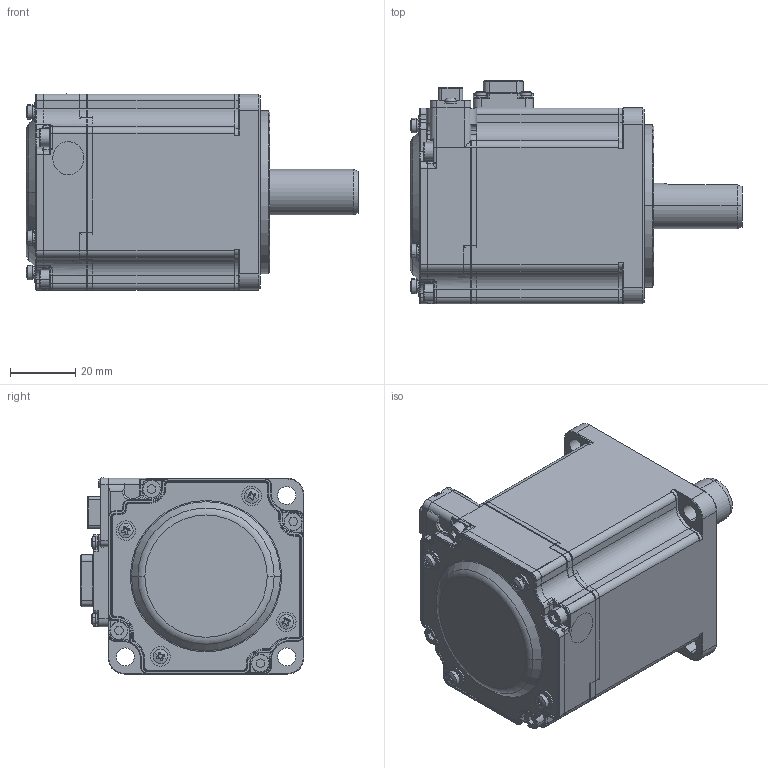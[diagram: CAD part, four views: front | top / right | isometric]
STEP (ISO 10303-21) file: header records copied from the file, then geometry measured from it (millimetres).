
FILE_DESCRIPTION(('Open CASCADE Model'),'2;1');
FILE_NAME('Open CASCADE Shape Model','2026-09-23T10:28:00',('Author'),( 'Open CASCADE'),'Open CASCADE STEP processor 7.9','Open CASCADE 7.9' ,'Unknown');
FILE_SCHEMA(('AUTOMOTIVE_DESIGN { 1 0 10303 214 1 1 1 1 }'));
Length unit declared in the file: millimetre
Products named in the file (49): Open CASCADE STEP translator 7.9 2; Open CASCADE STEP translator 7.9 2.1; Open CASCADE STEP translator 7.9 2.1.1; Open CASCADE STEP translator 7.9 2.1.2; Open CASCADE STEP translator 7.9 2.1.3; Open CASCADE STEP translator 7.9 2.1.4; Open CASCADE STEP translator 7.9 2.1.5; Open CASCADE STEP translator 7.9 2.1.6; Open CASCADE STEP translator 7.9 2.1.7; Open CASCADE STEP translator 7.9 2.1.8; Open CASCADE STEP translator 7.9 2.1.9; Open CASCADE STEP translator 7.9 2.1.10; Open CASCADE STEP translator 7.9 2.1.11; Open CASCADE STEP translator 7.9 2.1.12; Open CASCADE STEP translator 7.9 2.1.13; Open CASCADE STEP translator 7.9 2.1.14; Open CASCADE STEP translator 7.9 2.1.15; Open CASCADE STEP translator 7.9 2.1.16; Open CASCADE STEP translator 7.9 2.1.17; Open CASCADE STEP translator 7.9 2.1.18; Open CASCADE STEP translator 7.9 2.1.19; Open CASCADE STEP translator 7.9 2.1.20; Open CASCADE STEP translator 7.9 2.1.21; Open CASCADE STEP translator 7.9 2.1.22; Open CASCADE STEP translator 7.9 2.1.23; Open CASCADE STEP translator 7.9 2.1.24; Open CASCADE STEP translator 7.9 2.1.25; Open CASCADE STEP translator 7.9 2.1.26; Open CASCADE STEP translator 7.9 2.1.27; Open CASCADE STEP translator 7.9 2.1.28; Open CASCADE STEP translator 7.9 2.1.29; Open CASCADE STEP translator 7.9 2.1.30; Open CASCADE STEP translator 7.9 2.1.31; Open CASCADE STEP translator 7.9 2.1.32; Open CASCADE STEP translator 7.9 2.1.33; Open CASCADE STEP translator 7.9 2.1.34; Open CASCADE STEP translator 7.9 2.1.35; Open CASCADE STEP translator 7.9 2.1.36; Open CASCADE STEP translator 7.9 2.1.37; Open CASCADE STEP translator 7.9 2.1.38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
Assembly tree (48 placements, depth 3):
  Open CASCADE STEP translator 7.9 2
    Open CASCADE STEP translator 7.9 2.1
      Open CASCADE STEP translator 7.9 2.1.1
      Open CASCADE STEP translator 7.9 2.1.2
      Open CASCADE STEP translator 7.9 2.1.3
      Open CASCADE STEP translator 7.9 2.1.4
      Open CASCADE STEP translator 7.9 2.1.5
      Open CASCADE STEP translator 7.9 2.1.6
      Open CASCADE STEP translator 7.9 2.1.7
      Open CASCADE STEP translator 7.9 2.1.8
      Open CASCADE STEP translator 7.9 2.1.9
      Open CASCADE STEP translator 7.9 2.1.10
      Open CASCADE STEP translator 7.9 2.1.11
      Open CASCADE STEP translator 7.9 2.1.12
      Open CASCADE STEP translator 7.9 2.1.13
      Open CASCADE STEP translator 7.9 2.1.14
      Open CASCADE STEP translator 7.9 2.1.15
      Open CASCADE STEP translator 7.9 2.1.16
      Open CASCADE STEP translator 7.9 2.1.17
      Open CASCADE STEP translator 7.9 2.1.18
      Open CASCADE STEP translator 7.9 2.1.19
      Open CASCADE STEP translator 7.9 2.1.20
      Open CASCADE STEP translator 7.9 2.1.21
      Open CASCADE STEP translator 7.9 2.1.22
      Open CASCADE STEP translator 7.9 2.1.23
      Open CASCADE STEP translator 7.9 2.1.24
      Open CASCADE STEP translator 7.9 2.1.25
      Open CASCADE STEP translator 7.9 2.1.26
      Open CASCADE STEP translator 7.9 2.1.27
      Open CASCADE STEP translator 7.9 2.1.28
      Open CASCADE STEP translator 7.9 2.1.29
      Open CASCADE STEP translator 7.9 2.1.30
      Open CASCADE STEP translator 7.9 2.1.31
      Open CASCADE STEP translator 7.9 2.1.32
      Open CASCADE STEP translator 7.9 2.1.33
      Open CASCADE STEP translator 7.9 2.1.34
      Open CASCADE STEP translator 7.9 2.1.35
      Open CASCADE STEP translator 7.9 2.1.36
      Open CASCADE STEP translator 7.9 2.1.37
      Open CASCADE STEP translator 7.9 2.1.38
      Open CASCADE STEP translator 7.9 2.1.39
      Open CASCADE STEP translator 7.9 2.1.40
      Open CASCADE STEP translator 7.9 2.1.41
      Open CASCADE STEP translator 7.9 2.1.42
      Open CASCADE STEP translator 7.9 2.1.43
      Open CASCADE STEP translator 7.9 2.1.44
      Open CASCADE STEP translator 7.9 2.1.45
      Open CASCADE STEP translator 7.9 2.1.46
    Open CASCADE STEP translator 7.9 2.2
Bounding box: 101.8 x 68.6 x 60.1 mm (x, y, z)
Surface area: 40532.3 mm2 (no closed solid volume)
Topology: 0 solids, 47 shells, 1164 faces, 3714 edges, 2535 vertices
Faces by surface type: plane 576, cylinder 351, cone 121, torus 73, sphere 23, bspline 20
Entity records: 95625 total; most frequent: CARTESIAN_POINT 31243, DIRECTION 11783, LINE 6347, VECTOR 6347, ORIENTED_EDGE 6152, PCURVE 6152, DEFINITIONAL_REPRESENTATION 6152, EDGE_CURVE 3699
